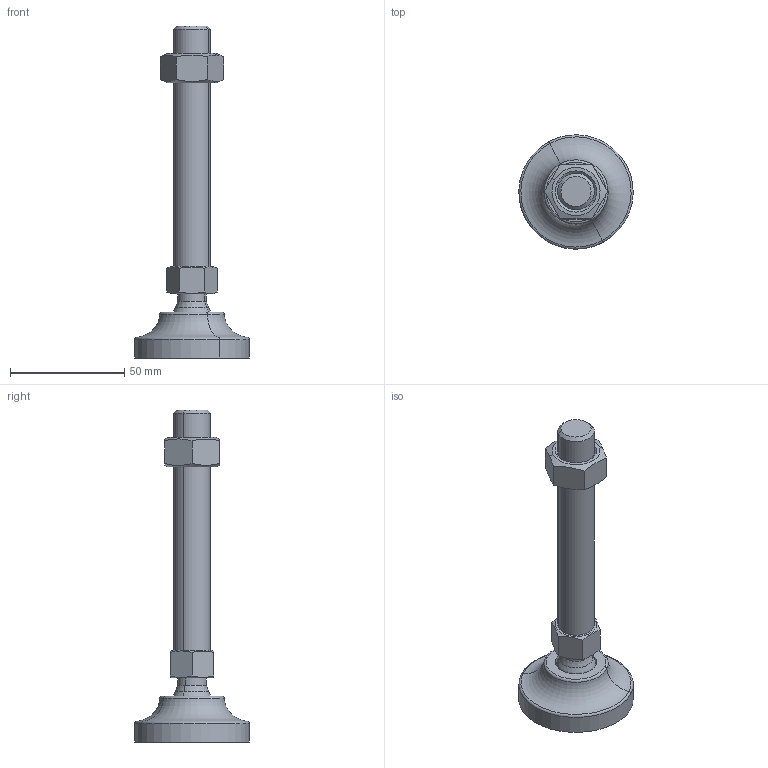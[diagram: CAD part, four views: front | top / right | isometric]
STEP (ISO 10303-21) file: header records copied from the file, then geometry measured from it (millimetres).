
FILE_DESCRIPTION(('CATIA V5 STEP Exchange'),'2;1');
FILE_NAME('C:\Users\ALI OZGUN\Desktop\alhan\saplama2\560501615.stp','2017-09-21T10:33:22+00:00',('none'),('none'),'CATIA Version 5 Release 21 GA (IN-10)','CATIA V5 STEP AP203','none');
FILE_SCHEMA(('CONFIG_CONTROL_DESIGN'));
Length unit declared in the file: millimetre
Products named in the file (1): 560501615
Bounding box: 49.99 x 49.99 x 145 mm (x, y, z)
Volume: 49809.1 mm3; surface area: 16483.2 mm2
Topology: 3 solids, 3 shells, 60 faces, 136 edges, 83 vertices
Faces by surface type: plane 20, cone 16, cylinder 14, torus 6, revolution 2, sphere 2
Entity records: 1852 total; most frequent: CARTESIAN_POINT 610, ORIENTED_EDGE 268, DIRECTION 186, EDGE_CURVE 134, AXIS2_PLACEMENT_3D 100, VERTEX_POINT 83, EDGE_LOOP 67, ADVANCED_FACE 60
